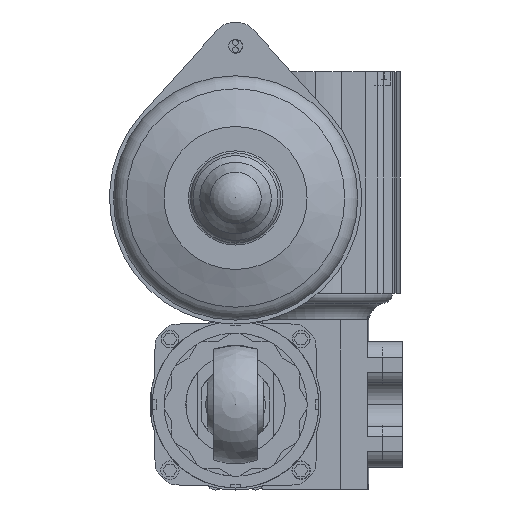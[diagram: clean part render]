
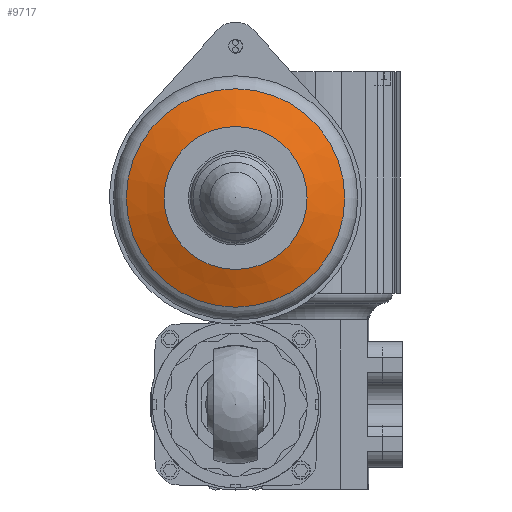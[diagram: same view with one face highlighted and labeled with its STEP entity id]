
A CAD part, left-side view. The second image highlights one B-rep face of the part: STEP entity #9717.
In plain terms, the highlighted conical face has half-angle 69.689 degrees and reference radius 27.486 mm.
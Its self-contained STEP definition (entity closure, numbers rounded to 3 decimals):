
#24=CONICAL_SURFACE('',#10547,27.486,1.216);
#722=CIRCLE('',#10546,27.486);
#723=CIRCLE('',#10548,18.);
#2744=ORIENTED_EDGE('',*,*,#4569,.F.);
#2745=ORIENTED_EDGE('',*,*,#4568,.T.);
#4568=EDGE_CURVE('',#5646,#5646,#722,.T.);
#4569=EDGE_CURVE('',#5647,#5647,#723,.T.);
#5646=VERTEX_POINT('',#15864);
#5647=VERTEX_POINT('',#15867);
#8256=EDGE_LOOP('',(#2744));
#8257=EDGE_LOOP('',(#2745));
#8954=FACE_BOUND('',#8256,.T.);
#8955=FACE_BOUND('',#8257,.T.);
#9717=ADVANCED_FACE('',(#8954,#8955),#24,.T.);
#10546=AXIS2_PLACEMENT_3D('',#15863,#12794,#12795);
#10547=AXIS2_PLACEMENT_3D('',#15865,#12796,#12797);
#10548=AXIS2_PLACEMENT_3D('',#15866,#12798,#12799);
#12794=DIRECTION('',(1.,0.,0.));
#12795=DIRECTION('',(0.,1.,0.));
#12796=DIRECTION('',(-1.,0.,0.));
#12797=DIRECTION('',(0.,-1.,0.));
#12798=DIRECTION('',(1.,0.,0.));
#12799=DIRECTION('',(0.,1.,0.));
#15863=CARTESIAN_POINT('',(110.221,0.,0.));
#15864=CARTESIAN_POINT('',(110.221,27.486,0.));
#15865=CARTESIAN_POINT('',(110.221,0.,0.));
#15866=CARTESIAN_POINT('',(113.731,0.,0.));
#15867=CARTESIAN_POINT('',(113.731,18.,0.));
